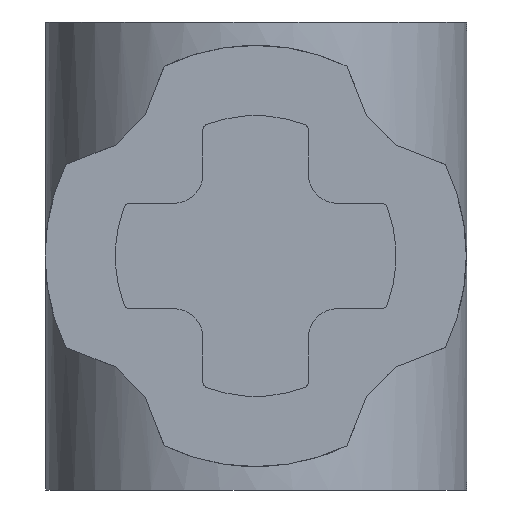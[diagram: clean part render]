
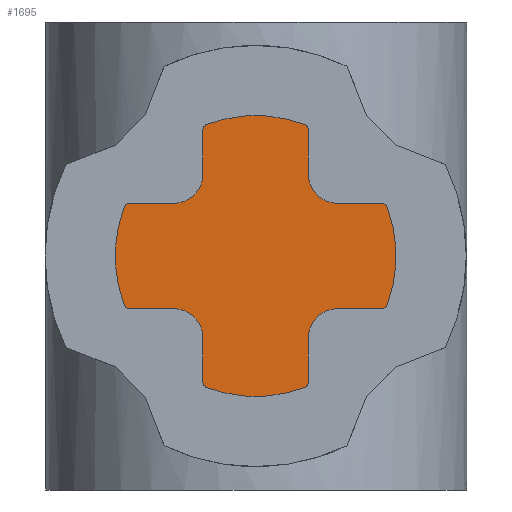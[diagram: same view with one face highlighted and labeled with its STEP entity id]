
A CAD part, front view. The second image highlights one B-rep face of the part: STEP entity #1695.
In plain terms, the highlighted planar face has unit normal (0, -1, 0).
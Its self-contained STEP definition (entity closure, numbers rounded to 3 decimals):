
#84=CIRCLE('',#1772,2.4);
#86=CIRCLE('',#1776,2.4);
#88=CIRCLE('',#1779,2.4);
#90=CIRCLE('',#1782,2.4);
#92=CIRCLE('',#1786,0.5);
#94=CIRCLE('',#1789,0.5);
#96=CIRCLE('',#1792,0.5);
#98=CIRCLE('',#1795,0.5);
#100=CIRCLE('',#1798,0.1);
#102=CIRCLE('',#1801,0.1);
#104=CIRCLE('',#1804,0.1);
#106=CIRCLE('',#1807,0.1);
#108=CIRCLE('',#1810,0.1);
#110=CIRCLE('',#1813,0.1);
#112=CIRCLE('',#1816,0.1);
#114=CIRCLE('',#1819,0.1);
#613=ORIENTED_EDGE('',*,*,#768,.F.);
#614=ORIENTED_EDGE('',*,*,#807,.T.);
#615=ORIENTED_EDGE('',*,*,#784,.T.);
#616=ORIENTED_EDGE('',*,*,#755,.T.);
#617=ORIENTED_EDGE('',*,*,#787,.T.);
#618=ORIENTED_EDGE('',*,*,#809,.T.);
#619=ORIENTED_EDGE('',*,*,#775,.F.);
#620=ORIENTED_EDGE('',*,*,#811,.T.);
#621=ORIENTED_EDGE('',*,*,#790,.T.);
#622=ORIENTED_EDGE('',*,*,#759,.T.);
#623=ORIENTED_EDGE('',*,*,#793,.T.);
#624=ORIENTED_EDGE('',*,*,#763,.T.);
#625=ORIENTED_EDGE('',*,*,#772,.F.);
#626=ORIENTED_EDGE('',*,*,#813,.T.);
#627=ORIENTED_EDGE('',*,*,#795,.T.);
#628=ORIENTED_EDGE('',*,*,#743,.T.);
#629=ORIENTED_EDGE('',*,*,#798,.T.);
#630=ORIENTED_EDGE('',*,*,#803,.T.);
#631=ORIENTED_EDGE('',*,*,#778,.F.);
#632=ORIENTED_EDGE('',*,*,#747,.T.);
#633=ORIENTED_EDGE('',*,*,#801,.T.);
#634=ORIENTED_EDGE('',*,*,#751,.T.);
#635=ORIENTED_EDGE('',*,*,#781,.T.);
#636=ORIENTED_EDGE('',*,*,#805,.T.);
#743=EDGE_CURVE('',#967,#968,#84,.F.);
#747=EDGE_CURVE('',#971,#972,#1129,.T.);
#751=EDGE_CURVE('',#975,#976,#86,.F.);
#755=EDGE_CURVE('',#979,#980,#88,.F.);
#759=EDGE_CURVE('',#983,#984,#90,.F.);
#763=EDGE_CURVE('',#987,#988,#1139,.T.);
#768=EDGE_CURVE('',#991,#993,#92,.F.);
#772=EDGE_CURVE('',#995,#988,#94,.F.);
#775=EDGE_CURVE('',#997,#999,#96,.F.);
#778=EDGE_CURVE('',#971,#1001,#98,.F.);
#781=EDGE_CURVE('',#976,#1003,#100,.F.);
#784=EDGE_CURVE('',#1005,#979,#102,.F.);
#787=EDGE_CURVE('',#980,#1007,#104,.F.);
#790=EDGE_CURVE('',#1009,#983,#106,.F.);
#793=EDGE_CURVE('',#984,#987,#108,.F.);
#795=EDGE_CURVE('',#1011,#967,#110,.F.);
#798=EDGE_CURVE('',#968,#1013,#112,.F.);
#801=EDGE_CURVE('',#972,#975,#114,.F.);
#803=EDGE_CURVE('',#1013,#1001,#1155,.T.);
#805=EDGE_CURVE('',#1003,#993,#1157,.T.);
#807=EDGE_CURVE('',#991,#1005,#1159,.T.);
#809=EDGE_CURVE('',#1007,#999,#1161,.T.);
#811=EDGE_CURVE('',#997,#1009,#1163,.T.);
#813=EDGE_CURVE('',#995,#1011,#1165,.T.);
#967=VERTEX_POINT('',#2585);
#968=VERTEX_POINT('',#2586);
#971=VERTEX_POINT('',#2594);
#972=VERTEX_POINT('',#2595);
#975=VERTEX_POINT('',#2603);
#976=VERTEX_POINT('',#2604);
#979=VERTEX_POINT('',#2612);
#980=VERTEX_POINT('',#2613);
#983=VERTEX_POINT('',#2621);
#984=VERTEX_POINT('',#2622);
#987=VERTEX_POINT('',#2630);
#988=VERTEX_POINT('',#2631);
#991=VERTEX_POINT('',#2639);
#993=VERTEX_POINT('',#2642);
#995=VERTEX_POINT('',#2648);
#997=VERTEX_POINT('',#2654);
#999=VERTEX_POINT('',#2657);
#1001=VERTEX_POINT('',#2663);
#1003=VERTEX_POINT('',#2669);
#1005=VERTEX_POINT('',#2675);
#1007=VERTEX_POINT('',#2681);
#1009=VERTEX_POINT('',#2687);
#1011=VERTEX_POINT('',#2696);
#1013=VERTEX_POINT('',#2702);
#1129=LINE('',#2593,#1265);
#1139=LINE('',#2629,#1275);
#1155=LINE('',#2710,#1291);
#1157=LINE('',#2713,#1293);
#1159=LINE('',#2716,#1295);
#1161=LINE('',#2719,#1297);
#1163=LINE('',#2722,#1299);
#1165=LINE('',#2725,#1301);
#1265=VECTOR('',#2074,1000.);
#1275=VECTOR('',#2104,1000.);
#1291=VECTOR('',#2194,1000.);
#1293=VECTOR('',#2198,1000.);
#1295=VECTOR('',#2202,1000.);
#1297=VECTOR('',#2206,1000.);
#1299=VECTOR('',#2210,1000.);
#1301=VECTOR('',#2214,1000.);
#1449=EDGE_LOOP('',(#613,#614,#615,#616,#617,#618,#619,#620,#621,#622,#623,
#624,#625,#626,#627,#628,#629,#630,#631,#632,#633,#634,#635,#636));
#1551=FACE_BOUND('',#1449,.T.);
#1607=PLANE('',#1899);
#1695=ADVANCED_FACE('',(#1551),#1607,.F.);
#1772=AXIS2_PLACEMENT_3D('',#2584,#2066,#2067);
#1776=AXIS2_PLACEMENT_3D('',#2602,#2080,#2081);
#1779=AXIS2_PLACEMENT_3D('',#2611,#2088,#2089);
#1782=AXIS2_PLACEMENT_3D('',#2620,#2096,#2097);
#1786=AXIS2_PLACEMENT_3D('',#2641,#2111,#2112);
#1789=AXIS2_PLACEMENT_3D('',#2650,#2119,#2120);
#1792=AXIS2_PLACEMENT_3D('',#2656,#2126,#2127);
#1795=AXIS2_PLACEMENT_3D('',#2662,#2133,#2134);
#1798=AXIS2_PLACEMENT_3D('',#2668,#2140,#2141);
#1801=AXIS2_PLACEMENT_3D('',#2674,#2147,#2148);
#1804=AXIS2_PLACEMENT_3D('',#2680,#2154,#2155);
#1807=AXIS2_PLACEMENT_3D('',#2686,#2161,#2162);
#1810=AXIS2_PLACEMENT_3D('',#2692,#2168,#2169);
#1813=AXIS2_PLACEMENT_3D('',#2695,#2174,#2175);
#1816=AXIS2_PLACEMENT_3D('',#2701,#2181,#2182);
#1819=AXIS2_PLACEMENT_3D('',#2707,#2188,#2189);
#1899=AXIS2_PLACEMENT_3D('',#2995,#2416,#2417);
#2066=DIRECTION('',(0.,1.,0.));
#2067=DIRECTION('',(0.,0.,1.));
#2074=DIRECTION('',(0.,0.,1.));
#2080=DIRECTION('',(0.,1.,0.));
#2081=DIRECTION('',(0.,0.,1.));
#2088=DIRECTION('',(0.,1.,0.));
#2089=DIRECTION('',(0.,0.,1.));
#2096=DIRECTION('',(0.,1.,0.));
#2097=DIRECTION('',(0.,0.,1.));
#2104=DIRECTION('',(0.,0.,1.));
#2111=DIRECTION('',(0.,1.,0.));
#2112=DIRECTION('',(0.,0.,1.));
#2119=DIRECTION('',(0.,1.,0.));
#2120=DIRECTION('',(0.,0.,1.));
#2126=DIRECTION('',(0.,1.,0.));
#2127=DIRECTION('',(0.,0.,1.));
#2133=DIRECTION('',(0.,1.,0.));
#2134=DIRECTION('',(0.,0.,1.));
#2140=DIRECTION('',(0.,1.,0.));
#2141=DIRECTION('',(0.,0.,1.));
#2147=DIRECTION('',(0.,1.,0.));
#2148=DIRECTION('',(0.,0.,1.));
#2154=DIRECTION('',(0.,1.,0.));
#2155=DIRECTION('',(0.,0.,1.));
#2161=DIRECTION('',(0.,1.,0.));
#2162=DIRECTION('',(0.,0.,1.));
#2168=DIRECTION('',(0.,1.,0.));
#2169=DIRECTION('',(0.,0.,1.));
#2174=DIRECTION('',(0.,1.,0.));
#2175=DIRECTION('',(0.,0.,1.));
#2181=DIRECTION('',(0.,1.,0.));
#2182=DIRECTION('',(0.,0.,1.));
#2188=DIRECTION('',(0.,1.,0.));
#2189=DIRECTION('',(0.,0.,1.));
#2194=DIRECTION('',(-1.,0.,0.));
#2198=DIRECTION('',(0.,0.,-1.));
#2202=DIRECTION('',(-1.,0.,0.));
#2206=DIRECTION('',(1.,0.,0.));
#2210=DIRECTION('',(0.,0.,-1.));
#2214=DIRECTION('',(1.,0.,0.));
#2416=DIRECTION('',(0.,1.,0.));
#2417=DIRECTION('',(0.,0.,1.));
#2584=CARTESIAN_POINT('',(0.,8.,0.));
#2585=CARTESIAN_POINT('',(2.25,8.,-0.835));
#2586=CARTESIAN_POINT('',(2.25,8.,0.835));
#2593=CARTESIAN_POINT('',(0.9,8.,0.9));
#2594=CARTESIAN_POINT('',(0.9,8.,1.4));
#2595=CARTESIAN_POINT('',(0.9,8.,2.156));
#2602=CARTESIAN_POINT('',(0.,8.,0.));
#2603=CARTESIAN_POINT('',(0.835,8.,2.25));
#2604=CARTESIAN_POINT('',(-0.835,8.,2.25));
#2611=CARTESIAN_POINT('',(0.,8.,0.));
#2612=CARTESIAN_POINT('',(-2.25,8.,0.835));
#2613=CARTESIAN_POINT('',(-2.25,8.,-0.835));
#2620=CARTESIAN_POINT('',(0.,8.,0.));
#2621=CARTESIAN_POINT('',(-0.835,8.,-2.25));
#2622=CARTESIAN_POINT('',(0.835,8.,-2.25));
#2629=CARTESIAN_POINT('',(0.9,8.,-0.9));
#2630=CARTESIAN_POINT('',(0.9,8.,-2.156));
#2631=CARTESIAN_POINT('',(0.9,8.,-1.4));
#2639=CARTESIAN_POINT('',(-1.4,8.,0.9));
#2641=CARTESIAN_POINT('',(-1.4,8.,1.4));
#2642=CARTESIAN_POINT('',(-0.9,8.,1.4));
#2648=CARTESIAN_POINT('',(1.4,8.,-0.9));
#2650=CARTESIAN_POINT('',(1.4,8.,-1.4));
#2654=CARTESIAN_POINT('',(-0.9,8.,-1.4));
#2656=CARTESIAN_POINT('',(-1.4,8.,-1.4));
#2657=CARTESIAN_POINT('',(-1.4,8.,-0.9));
#2662=CARTESIAN_POINT('',(1.4,8.,1.4));
#2663=CARTESIAN_POINT('',(1.4,8.,0.9));
#2668=CARTESIAN_POINT('',(-0.8,8.,2.156));
#2669=CARTESIAN_POINT('',(-0.9,8.,2.156));
#2674=CARTESIAN_POINT('',(-2.156,8.,0.8));
#2675=CARTESIAN_POINT('',(-2.156,8.,0.9));
#2680=CARTESIAN_POINT('',(-2.156,8.,-0.8));
#2681=CARTESIAN_POINT('',(-2.156,8.,-0.9));
#2686=CARTESIAN_POINT('',(-0.8,8.,-2.156));
#2687=CARTESIAN_POINT('',(-0.9,8.,-2.156));
#2692=CARTESIAN_POINT('',(0.8,8.,-2.156));
#2695=CARTESIAN_POINT('',(2.156,8.,-0.8));
#2696=CARTESIAN_POINT('',(2.156,8.,-0.9));
#2701=CARTESIAN_POINT('',(2.156,8.,0.8));
#2702=CARTESIAN_POINT('',(2.156,8.,0.9));
#2707=CARTESIAN_POINT('',(0.8,8.,2.156));
#2710=CARTESIAN_POINT('',(0.9,8.,0.9));
#2713=CARTESIAN_POINT('',(-0.9,8.,0.9));
#2716=CARTESIAN_POINT('',(-0.9,8.,0.9));
#2719=CARTESIAN_POINT('',(-0.9,8.,-0.9));
#2722=CARTESIAN_POINT('',(-0.9,8.,-0.9));
#2725=CARTESIAN_POINT('',(0.9,8.,-0.9));
#2995=CARTESIAN_POINT('',(0.,8.,0.));
